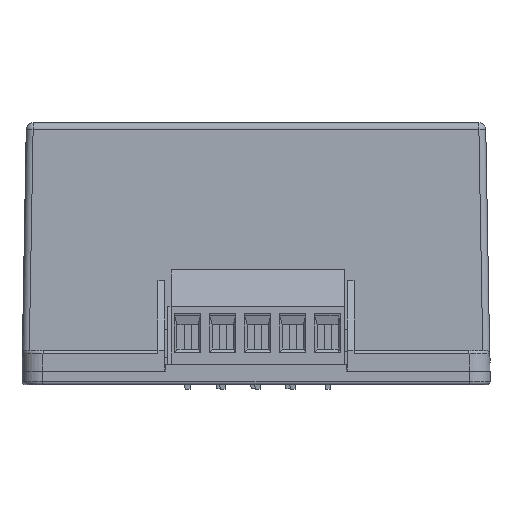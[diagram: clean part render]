
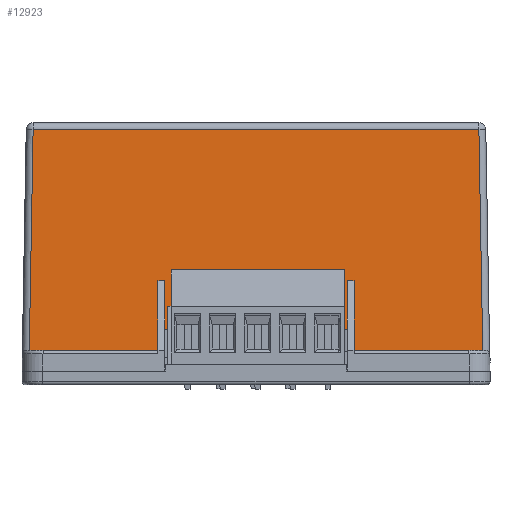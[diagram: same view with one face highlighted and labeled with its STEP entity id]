
A CAD part, front view. The second image highlights one B-rep face of the part: STEP entity #12923.
In plain terms, the highlighted planar face has unit normal (0, -1, 0.018).
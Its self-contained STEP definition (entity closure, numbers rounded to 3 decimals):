
#4086=CARTESIAN_POINT('',(-32.289,-45.441,35.017));
#4087=VERTEX_POINT('',#4086);
#4138=CARTESIAN_POINT('',(32.289,-45.441,35.017));
#4139=VERTEX_POINT('',#4138);
#4154=CARTESIAN_POINT('',(-32.289,-45.441,35.017));
#4155=DIRECTION('',(1.0,0.0,0.0));
#4156=VECTOR('',#4155,64.578);
#4157=LINE('',#4154,#4156);
#4158=EDGE_CURVE('',#4087,#4139,#4157,.T.);
#6186=CARTESIAN_POINT('',(32.848,-46.,3.));
#6187=VERTEX_POINT('',#6186);
#6195=CARTESIAN_POINT('',(14.2,-46.,3.));
#6196=VERTEX_POINT('',#6195);
#6197=CARTESIAN_POINT('',(32.848,-46.,3.));
#6198=DIRECTION('',(-1.0,0.0,0.0));
#6199=VECTOR('',#6198,18.648);
#6200=LINE('',#6197,#6199);
#6201=EDGE_CURVE('',#6187,#6196,#6200,.T.);
#11110=CARTESIAN_POINT('',(-13.2,-45.948,6.));
#11111=VERTEX_POINT('',#11110);
#11118=CARTESIAN_POINT('',(-13.2,-45.823,13.124));
#11119=VERTEX_POINT('',#11118);
#11120=CARTESIAN_POINT('',(-13.2,-45.823,13.124));
#11121=DIRECTION('',(0.0,-0.017,-1.));
#11122=VECTOR('',#11121,7.125);
#11123=LINE('',#11120,#11122);
#11124=EDGE_CURVE('',#11119,#11111,#11123,.T.);
#11371=CARTESIAN_POINT('',(13.2,-45.823,13.124));
#11372=VERTEX_POINT('',#11371);
#11379=CARTESIAN_POINT('',(13.2,-45.948,6.));
#11380=VERTEX_POINT('',#11379);
#11381=CARTESIAN_POINT('',(13.2,-45.948,6.));
#11382=DIRECTION('',(0.0,0.017,1.));
#11383=VECTOR('',#11382,7.125);
#11384=LINE('',#11381,#11383);
#11385=EDGE_CURVE('',#11380,#11372,#11384,.T.);
#11544=CARTESIAN_POINT('',(32.289,-45.441,35.017));
#11545=DIRECTION('',(0.017,-0.017,-1.));
#11546=VECTOR('',#11545,32.027);
#11547=LINE('',#11544,#11546);
#11548=EDGE_CURVE('',#4139,#6187,#11547,.T.);
#11623=CARTESIAN_POINT('',(-32.848,-46.,3.));
#11624=VERTEX_POINT('',#11623);
#11625=CARTESIAN_POINT('',(-32.848,-46.,3.));
#11626=DIRECTION('',(0.017,0.017,1.));
#11627=VECTOR('',#11626,32.027);
#11628=LINE('',#11625,#11627);
#11629=EDGE_CURVE('',#11624,#4087,#11628,.T.);
#12554=CARTESIAN_POINT('',(-13.2,-45.948,6.));
#12555=DIRECTION('',(1.0,0.0,0.0));
#12556=VECTOR('',#12555,26.4);
#12557=LINE('',#12554,#12556);
#12558=EDGE_CURVE('',#11111,#11380,#12557,.T.);
#12873=CARTESIAN_POINT('',(33.9,-46.,3.));
#12874=DIRECTION('',(0.0,-1.,0.017));
#12875=DIRECTION('',(0.0,-0.017,-1.));
#12876=AXIS2_PLACEMENT_3D('',#12873,#12874,#12875);
#12877=PLANE('',#12876);
#12878=ORIENTED_EDGE('',*,*,#11629,.F.);
#12879=CARTESIAN_POINT('',(-14.2,-46.,3.));
#12880=VERTEX_POINT('',#12879);
#12881=CARTESIAN_POINT('',(-14.2,-46.,3.));
#12882=DIRECTION('',(-1.0,0.0,0.0));
#12883=VECTOR('',#12882,18.648);
#12884=LINE('',#12881,#12883);
#12885=EDGE_CURVE('',#12880,#11624,#12884,.T.);
#12886=ORIENTED_EDGE('',*,*,#12885,.F.);
#12887=CARTESIAN_POINT('',(-14.2,-45.823,13.124));
#12888=VERTEX_POINT('',#12887);
#12889=CARTESIAN_POINT('',(-14.2,-46.,3.));
#12890=DIRECTION('',(0.0,0.017,1.));
#12891=VECTOR('',#12890,10.126);
#12892=LINE('',#12889,#12891);
#12893=EDGE_CURVE('',#12880,#12888,#12892,.T.);
#12894=ORIENTED_EDGE('',*,*,#12893,.T.);
#12895=CARTESIAN_POINT('',(-14.2,-45.823,13.124));
#12896=DIRECTION('',(1.0,0.0,0.0));
#12897=VECTOR('',#12896,1.);
#12898=LINE('',#12895,#12897);
#12899=EDGE_CURVE('',#12888,#11119,#12898,.T.);
#12900=ORIENTED_EDGE('',*,*,#12899,.T.);
#12901=ORIENTED_EDGE('',*,*,#11124,.T.);
#12902=ORIENTED_EDGE('',*,*,#12558,.T.);
#12903=ORIENTED_EDGE('',*,*,#11385,.T.);
#12904=CARTESIAN_POINT('',(14.2,-45.823,13.124));
#12905=VERTEX_POINT('',#12904);
#12906=CARTESIAN_POINT('',(13.2,-45.823,13.124));
#12907=DIRECTION('',(1.0,0.0,0.0));
#12908=VECTOR('',#12907,1.);
#12909=LINE('',#12906,#12908);
#12910=EDGE_CURVE('',#11372,#12905,#12909,.T.);
#12911=ORIENTED_EDGE('',*,*,#12910,.T.);
#12912=CARTESIAN_POINT('',(14.2,-45.823,13.124));
#12913=DIRECTION('',(0.0,-0.017,-1.));
#12914=VECTOR('',#12913,10.126);
#12915=LINE('',#12912,#12914);
#12916=EDGE_CURVE('',#12905,#6196,#12915,.T.);
#12917=ORIENTED_EDGE('',*,*,#12916,.T.);
#12918=ORIENTED_EDGE('',*,*,#6201,.F.);
#12919=ORIENTED_EDGE('',*,*,#11548,.F.);
#12920=ORIENTED_EDGE('',*,*,#4158,.F.);
#12921=EDGE_LOOP('',(#12878,#12886,#12894,#12900,#12901,#12902,#12903,#12911,#12917,#12918,#12919,#12920));
#12922=FACE_OUTER_BOUND('',#12921,.T.);
#12923=ADVANCED_FACE('',(#12922),#12877,.T.);
